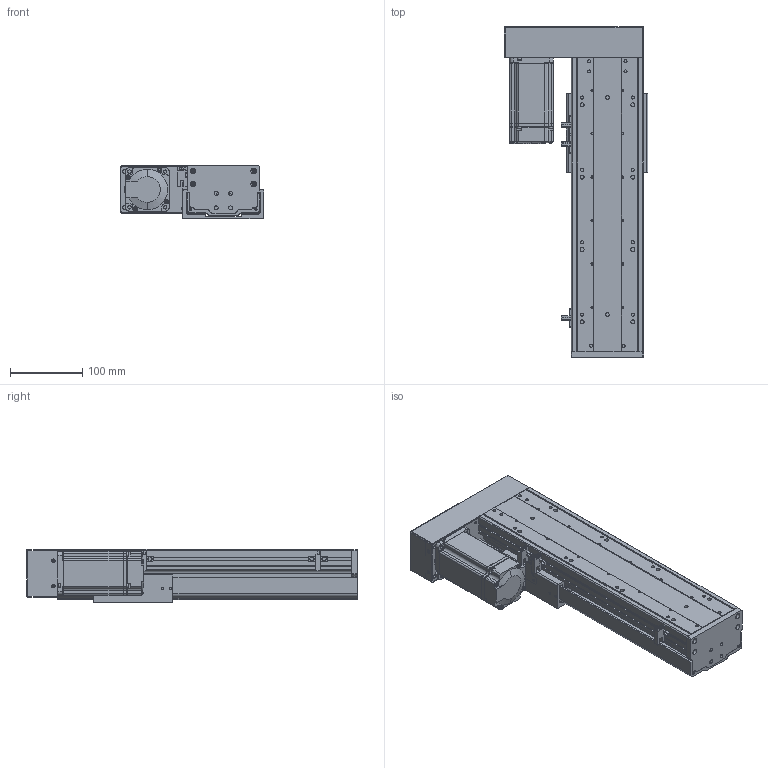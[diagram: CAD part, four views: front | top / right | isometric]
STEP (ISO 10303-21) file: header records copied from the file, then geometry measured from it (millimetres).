
FILE_DESCRIPTION (( 'STEP AP203' ), '1' );
FILE_NAME ('RY100FBS-L1610-300-LK(15双轨）.SLDASM_200.step', '2021-02-23T01:49:07', ( '盈信电脑' ), ( '东莞市道滘镇水果街19号' ), 'SwSTEP 2.0', 'SolidWorks 2012', '' );
FILE_SCHEMA (( 'CONFIG_CONTROL_DESIGN' ));
Length unit declared in the file: millimetre
Products named in the file (14): RY100FBS-L1610-300-LK(15双轨）.SLDASM_200; RY100FBS-酘衵殏萇儂欶; RY100FBS-后盖板(15双轨）; RY100FBS-酘衵殏萇儂啣; 侂狟400W侜督萇儂; 15; 覜茼ん672; RY100FBS-铝滑块（16丝杆）; RY100FBS-嫖萇覜茼え; 滅袉蝶18-24; RY100FBS-转折支撑座（15双轨）; 滅袉蝶18-15; RY100FBS-300蛌殏奻裔啣-LK_200; RY100FBS-300蛌殏菁釱-LK_200
Assembly tree (15 placements, depth 3):
  RY100FBS-L1610-300-LK(15双轨）.SLDASM_200
    RY100FBS-300蛌殏菁釱-LK_200
    RY100FBS-300蛌殏奻裔啣-LK_200
    RY100FBS-转折支撑座（15双轨）
    滅袉蝶18-24
    滅袉蝶18-15
    RY100FBS-铝滑块（16丝杆）
    覜茼ん672  x3
    RY100FBS-嫖萇覜茼え
    侂狟400W侜督萇儂
      15
    RY100FBS-后盖板(15双轨）
    RY100FBS-酘衵殏萇儂啣
    RY100FBS-酘衵殏萇儂欶
Bounding box: 198.75 x 457 x 74 mm (x, y, z)
Volume: 1672720.3 mm3; surface area: 581393.5 mm2
Topology: 14 solids, 14 shells, 1533 faces, 4286 edges, 2774 vertices
Faces by surface type: cylinder 701, plane 680, cone 126, bspline 26
Entity records: 47557 total; most frequent: CARTESIAN_POINT 10096, DIRECTION 7609, ORIENTED_EDGE 7448, EDGE_CURVE 3724, AXIS2_PLACEMENT_3D 2723, VERTEX_POINT 2454, LINE 2163, VECTOR 2163
